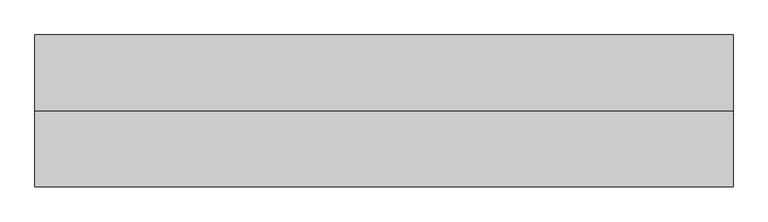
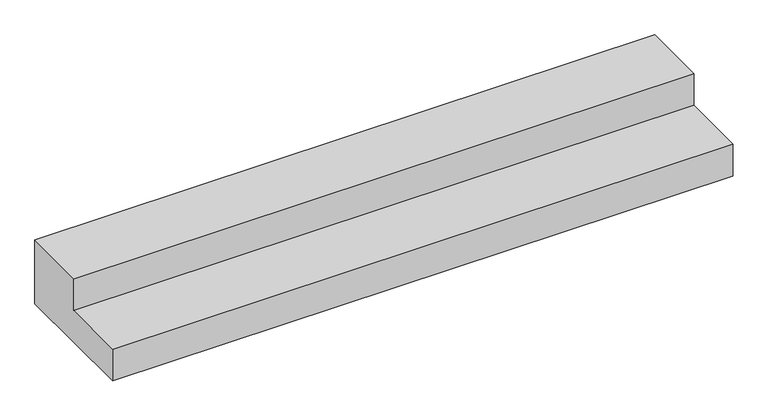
"""IFC4 building model written with IfcOpenShell, lengths in millimetres: proxy geometry, 常规模型 3 : 常规模型 3."""

from ifc_helpers import new_model, si_unit, frame, origin, place, context, project, spatial, polyline, outline, extrude, source, transform, mapped, element, save


def generic_models_b37a2436(model_context):
    return source(origin(), model_context, "Body", "SweptSolid", [
        extrude(outline(polyline([(-25827.7106127, -450.0), (-26427.7106127, -450.0), (-26427.7106127, -300.0), (-26127.7106127, -300.0), (-26127.7106127, -150.0), (-25827.7106127, -150.0), (-25827.7106127, -450.0)])), frame((-42537.1400177, 0.0, 0.0), z_axis=(1.0, 0.0, 0.0), x_axis=(0.0, 1.0, 0.0)), (0.0, 0.0, 1.0), 2760.0),
    ])


if __name__ == "__main__":
    model = new_model("IFC4")
    model_context = context("Model", 3, world=origin())
    ifc_project = project(units=[si_unit("LENGTHUNIT", "METRE", prefix="MILLI")], contexts=[model_context])
    site = spatial("IfcSite", under=ifc_project)
    building = spatial("IfcBuilding", under=site)
    placement = place(None, origin())
    generic_models_shape = generic_models_b37a2436(model_context)
    element("IfcBuildingElementProxy", 1, Name="常规模型 3 : 常规模型 3", ObjectType="常规模型 3 : 常规模型 3", at=placement, inside=building, context=model_context, shape_type="MappedRepresentation", body=[
        mapped(generic_models_shape, transform((0.0, 0.0, 0.0), x_axis=(1.0, 0.0, 0.0), y_axis=(0.0, 1.0, 0.0), z_axis=(0.0, 0.0, 1.0))),
    ])
    save(model, "model.ifc")
